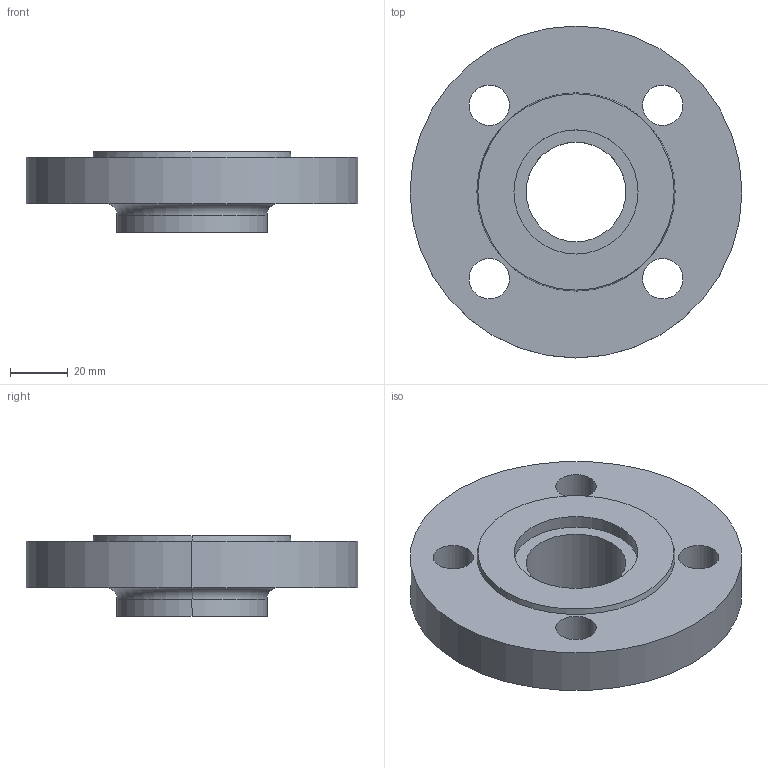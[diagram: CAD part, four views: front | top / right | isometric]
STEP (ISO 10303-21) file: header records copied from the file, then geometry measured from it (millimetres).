
FILE_DESCRIPTION (( 'STEP AP214' ), '1' );
FILE_NAME ('PN40 DN25 Type 12 - Type G Face.STEP', '2018-12-29T20:28:00', ( '' ), ( '' ), 'SwSTEP 2.0', 'SolidWorks 2019', '' );
FILE_SCHEMA (( 'AUTOMOTIVE_DESIGN' ));
Length unit declared in the file: millimetre
Products named in the file (1): PN40 DN25 Type 12 - Type G Face
Bounding box: 115 x 115 x 28 mm (x, y, z)
Volume: 156991.4 mm3; surface area: 31143.6 mm2
Topology: 1 solids, 1 shells, 25 faces, 58 edges, 38 vertices
Faces by surface type: cylinder 16, plane 5, torus 2, cone 2
Entity records: 790 total; most frequent: DIRECTION 150, CARTESIAN_POINT 122, ORIENTED_EDGE 116, AXIS2_PLACEMENT_3D 66, EDGE_CURVE 58, CIRCLE 40, EDGE_LOOP 38, VERTEX_POINT 38
